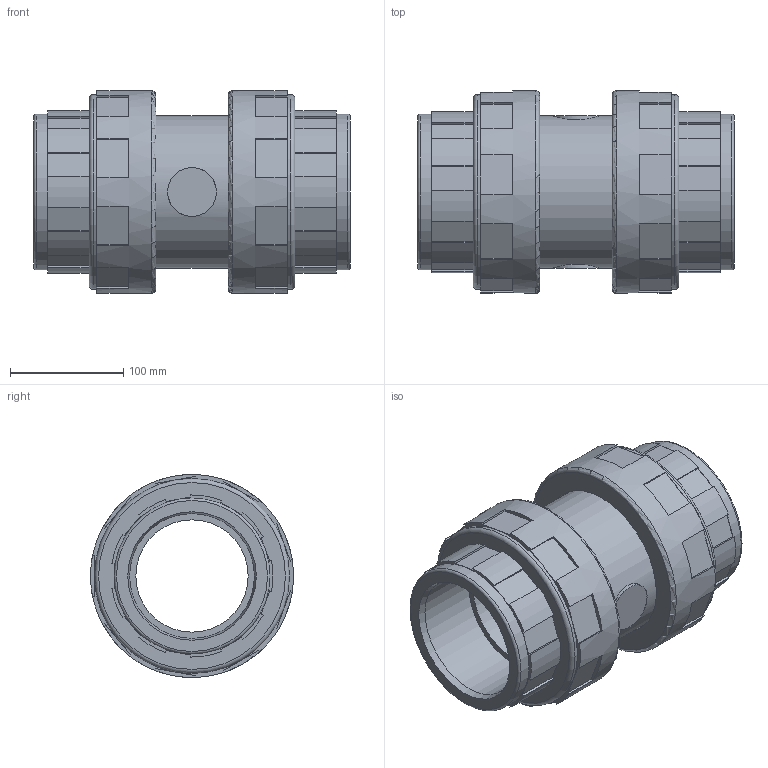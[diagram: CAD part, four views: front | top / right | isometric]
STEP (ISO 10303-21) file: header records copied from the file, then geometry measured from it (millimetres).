
FILE_DESCRIPTION(/* description */ (''),/* implementation_level */ '2;1');
FILE_NAME(/* name */ 'C:\Users\POLYPIPE\Desktop\DATASET INVENTOR\LIBRERIA EFFAST\3D_VALVOLE\3D_VALVOLE NON RITORNO\3D_CV\3D_CDRCVD\3D_CDRCVD1100.stp',/* time_stamp */ '2018-01-25T17:40:22+01:00',/* author */ ('POLYPIPE'),/* organization */ ('TraceParts S.A.'),/* preprocessor_version */ 'ST-DEVELOPER v16.1',/* originating_system */ 'Autodesk Inventor 2016',/* authorisation */ '');
FILE_SCHEMA (('CONFIG_CONTROL_DESIGN'));
Length unit declared in the file: millimetre
Products named in the file (1): 3D_CDRCVD1100 cepex
Bounding box: 279 x 178.99 x 178.99 mm (x, y, z)
Volume: 2873258.5 mm3; surface area: 341610.1 mm2
Topology: 1 solids, 1 shells, 216 faces, 567 edges, 363 vertices
Faces by surface type: plane 174, cylinder 34, torus 6, cone 2
Full cylindrical faces by diameter (mm): 99 x1, 110 x2, 134.25 x1, 136.4 x2, 137.5 x2, 171.84 x2, 179 x2
Entity records: 6626 total; most frequent: CARTESIAN_POINT 1307, DIRECTION 1106, ORIENTED_EDGE 1076, EDGE_CURVE 538, LINE 396, VECTOR 396, AXIS2_PLACEMENT_3D 355, VERTEX_POINT 354
